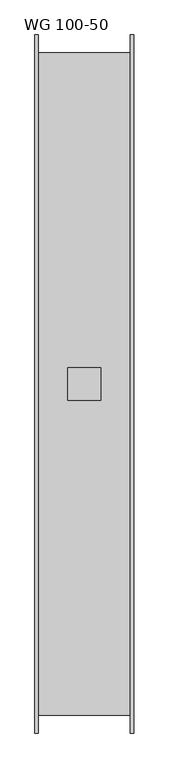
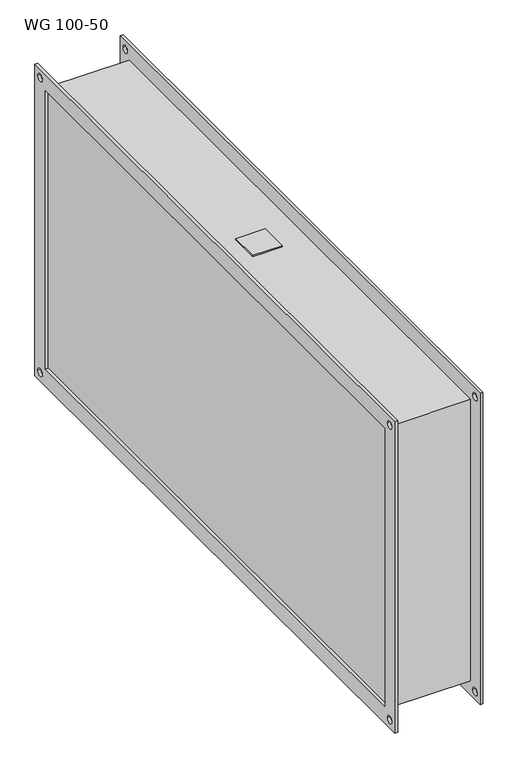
"""IFC4 building model written with IfcOpenShell, lengths in millimetres: damper geometry, KORF_Вставка_Гибкая_WG : WG 100-50."""

from ifc_helpers import new_model, si_unit, point, frame, frame_2d, origin, place, context, project, spatial, polyline, circle_curve, trimmed, segment, composite_curve, outline, extrude, source, transform, mapped, element, save


def wg_100_50_6149abaa(model_context):
    return source(origin(), model_context, "Body", "SweptSolid", [
        extrude(outline(polyline([(50.0, -25.0), (50.0, 25.0), (100.0, 25.0), (100.0, -25.0), (50.0, -25.0)])), frame((0.0, 0.0, 253.0), z_axis=(0.0, 0.0, 1.0), x_axis=(1.0, 0.0, 0.0)), (0.0, 0.0, 1.0), 2.0),
        extrude(outline(polyline([(-530.0, 280.0), (530.0, 280.0), (530.0, -280.0), (-530.0, -280.0), (-530.0, 280.0)]), holes=[polyline([(-500.0, 250.0), (-500.0, -250.0), (500.0, -250.0), (500.0, 250.0), (-500.0, 250.0)]), composite_curve([segment(trimmed(circle_curve(frame_2d((515.0, 265.0)), 6.5), [point((508.5, 265.0))], [point((521.5, 265.0))], True, "CARTESIAN"), True, "CONTINUOUS"), segment(trimmed(circle_curve(frame_2d((515.0, 265.0)), 6.5), [point((521.5, 265.0))], [point((508.5, 265.0))], True, "CARTESIAN"), True, "CONTINUOUS")], self_intersect=False), composite_curve([segment(trimmed(circle_curve(frame_2d((-515.0, 265.0)), 6.5), [point((-521.5, 265.0))], [point((-508.5, 265.0))], True, "CARTESIAN"), True, "CONTINUOUS"), segment(trimmed(circle_curve(frame_2d((-515.0, 265.0)), 6.5), [point((-508.5, 265.0))], [point((-521.5, 265.0))], True, "CARTESIAN"), True, "CONTINUOUS")], self_intersect=False), composite_curve([segment(trimmed(circle_curve(frame_2d((-515.0, -265.0)), 6.5), [point((-521.5, -265.0))], [point((-508.5, -265.0))], True, "CARTESIAN"), True, "CONTINUOUS"), segment(trimmed(circle_curve(frame_2d((-515.0, -265.0)), 6.5), [point((-508.5, -265.0))], [point((-521.5, -265.0))], True, "CARTESIAN"), True, "CONTINUOUS")], self_intersect=False), composite_curve([segment(trimmed(circle_curve(frame_2d((515.0, -265.0)), 6.5), [point((508.5, -265.0))], [point((521.5, -265.0))], True, "CARTESIAN"), True, "CONTINUOUS"), segment(trimmed(circle_curve(frame_2d((515.0, -265.0)), 6.5), [point((521.5, -265.0))], [point((508.5, -265.0))], True, "CARTESIAN"), True, "CONTINUOUS")], self_intersect=False)]), frame((145.0, 0.0, 0.0), z_axis=(1.0, 0.0, 0.0), x_axis=(0.0, 1.0, 0.0)), (0.0, 0.0, 1.0), 5.0),
        extrude(outline(polyline([(-530.0, 280.0), (530.0, 280.0), (530.0, -280.0), (-530.0, -280.0), (-530.0, 280.0)]), holes=[polyline([(-500.0, 250.0), (-500.0, -250.0), (500.0, -250.0), (500.0, 250.0), (-500.0, 250.0)]), composite_curve([segment(trimmed(circle_curve(frame_2d((515.0, 265.0)), 6.5), [point((508.5, 265.0))], [point((521.5, 265.0))], True, "CARTESIAN"), True, "CONTINUOUS"), segment(trimmed(circle_curve(frame_2d((515.0, 265.0)), 6.5), [point((521.5, 265.0))], [point((508.5, 265.0))], True, "CARTESIAN"), True, "CONTINUOUS")], self_intersect=False), composite_curve([segment(trimmed(circle_curve(frame_2d((-515.0, 265.0)), 6.5), [point((-521.5, 265.0))], [point((-508.5, 265.0))], True, "CARTESIAN"), True, "CONTINUOUS"), segment(trimmed(circle_curve(frame_2d((-515.0, 265.0)), 6.5), [point((-508.5, 265.0))], [point((-521.5, 265.0))], True, "CARTESIAN"), True, "CONTINUOUS")], self_intersect=False), composite_curve([segment(trimmed(circle_curve(frame_2d((-515.0, -265.0)), 6.5), [point((-521.5, -265.0))], [point((-508.5, -265.0))], True, "CARTESIAN"), True, "CONTINUOUS"), segment(trimmed(circle_curve(frame_2d((-515.0, -265.0)), 6.5), [point((-508.5, -265.0))], [point((-521.5, -265.0))], True, "CARTESIAN"), True, "CONTINUOUS")], self_intersect=False), composite_curve([segment(trimmed(circle_curve(frame_2d((515.0, -265.0)), 6.5), [point((508.5, -265.0))], [point((521.5, -265.0))], True, "CARTESIAN"), True, "CONTINUOUS"), segment(trimmed(circle_curve(frame_2d((515.0, -265.0)), 6.5), [point((521.5, -265.0))], [point((508.5, -265.0))], True, "CARTESIAN"), True, "CONTINUOUS")], self_intersect=False)]), frame((0.0, 0.0, 0.0), z_axis=(1.0, 0.0, 0.0), x_axis=(0.0, 1.0, 0.0)), (0.0, 0.0, 1.0), 5.0),
        extrude(outline(polyline([(145.0, 503.0), (145.0, -503.0), (5.0, -503.0), (5.0, 503.0), (145.0, 503.0)])), frame((0.0, 0.0, -253.0), z_axis=(0.0, 0.0, 1.0), x_axis=(1.0, 0.0, 0.0)), (0.0, 0.0, 1.0), 506.0),
    ])


if __name__ == "__main__":
    model = new_model("IFC4")
    model_context = context("Model", 3, world=origin())
    ifc_project = project(units=[si_unit("LENGTHUNIT", "METRE", prefix="MILLI")], contexts=[model_context])
    site = spatial("IfcSite", under=ifc_project)
    building = spatial("IfcBuilding", under=site)
    placement = place(None, origin())
    wg_100_50_shape = wg_100_50_6149abaa(model_context)
    element("IfcDamper", 1, ObjectType="KORF_Вставка_Гибкая_WG : WG 100-50", at=placement, inside=building, context=model_context, shape_type="MappedRepresentation", body=[
        mapped(wg_100_50_shape, transform((0.0, 0.0, 0.0), x_axis=(1.0, 0.0, 0.0), y_axis=(0.0, 1.0, 0.0), z_axis=(0.0, 0.0, 1.0))),
    ])
    save(model, "model.ifc")
